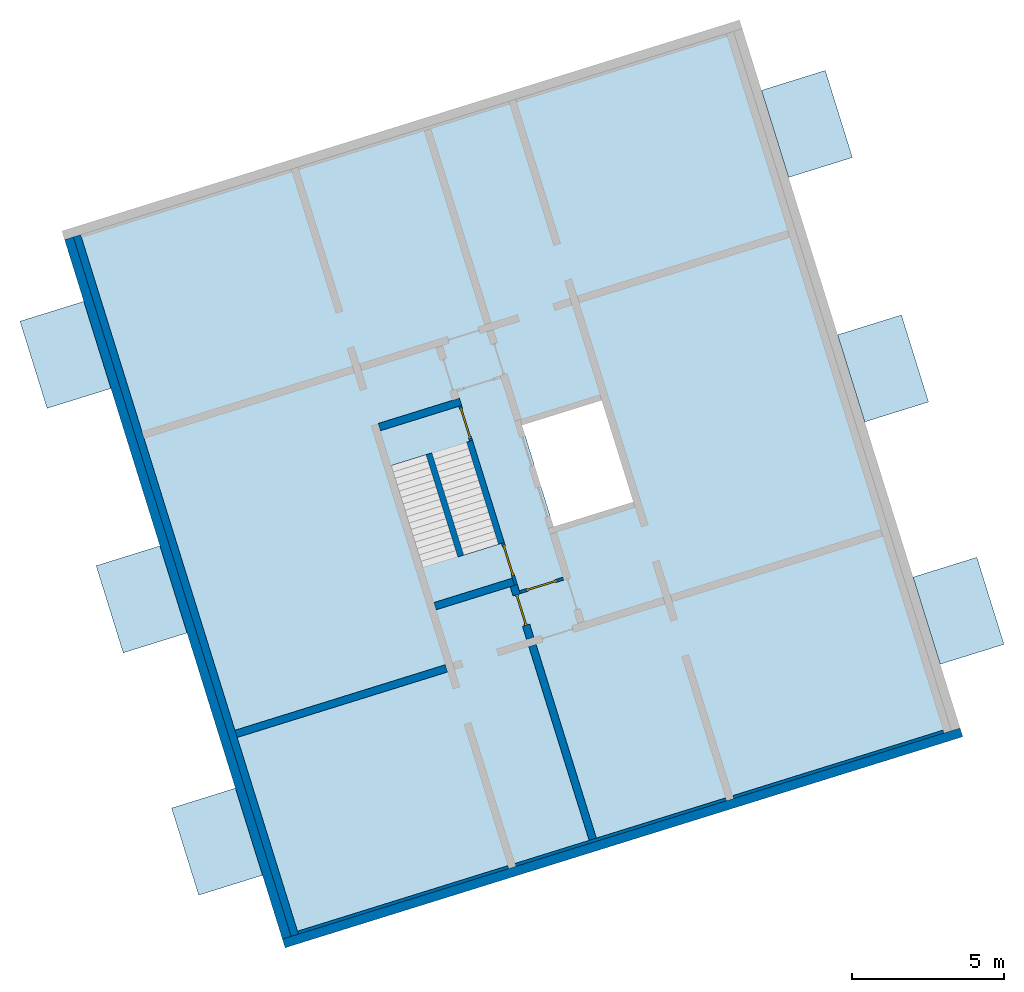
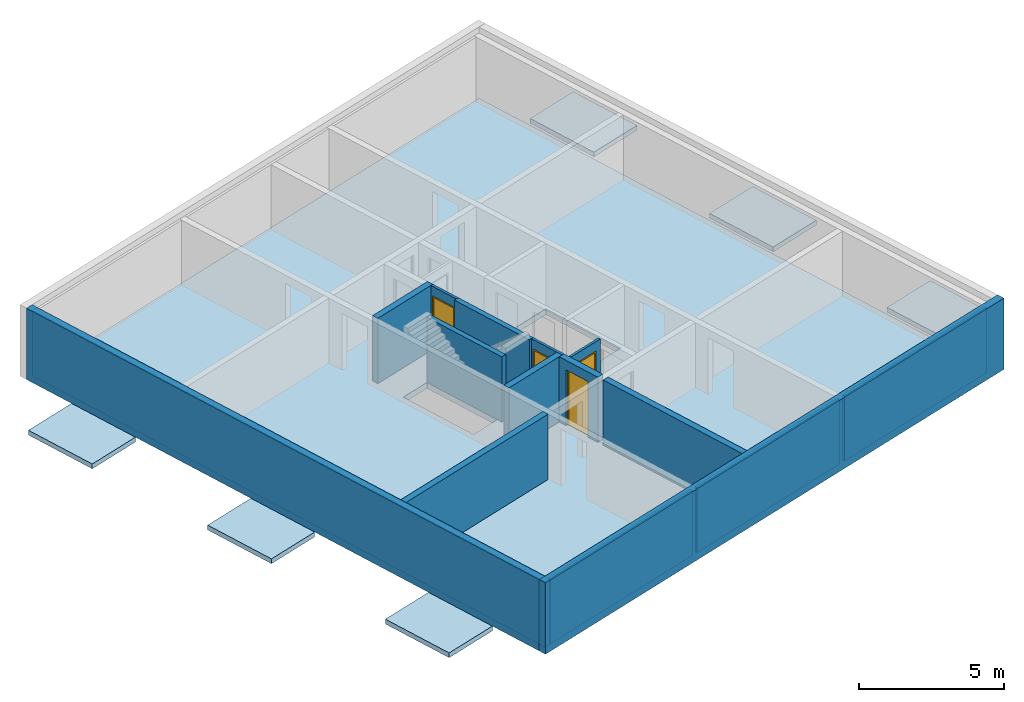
# One storey, part 1 of 4: 16 walls, 7 slabs, 4 doors, 6 openings.
"""IFC4 building model written with IfcOpenShell, lengths in metres."""

import ifcopenshell
import ifcopenshell.guid

model = None  # the IFC model being written
_history = None  # IfcOwnerHistory: only IFC2X3 demands one
_inside = {}  # id of a spatial element -> (the spatial element, [elements in it])
_under = {}  # id of a project, library or spatial element -> (it, [spatial elements below it])
_declared = {}  # id of a project -> (the project, [libraries it declares])
_typed = {}  # id of a type object -> (the type object, [elements of that type])
_made_of = {}  # id of a material, layer set ... -> (it, [elements and type objects made of it])


def new_model(schema):
    """Start an empty IFC model of exactly this schema.

    Asked for "IFC4X3", IfcOpenShell would pick the latest addendum, in which some entities
    have other attributes; the version numbers below select the first issue.
    IFC2X3 requires an IfcOwnerHistory on every rooted entity: one is made here for all.
    """
    global model, _history
    if schema == "IFC4X3":
        model = ifcopenshell.file(schema_version=(4, 3, 0, 0))
    else:
        model = ifcopenshell.file(schema=schema)
    _inside.clear()
    _under.clear()
    _declared.clear()
    _typed.clear()
    _made_of.clear()
    _history = None
    if model.schema == "IFC2X3":
        org = make("IfcOrganization", Name="unknown")
        user = make(
            "IfcPersonAndOrganization",
            ThePerson=make("IfcPerson", FamilyName="unknown"),
            TheOrganization=org,
        )
        app = make(
            "IfcApplication",
            ApplicationDeveloper=org,
            Version="unknown",
            ApplicationFullName="unknown",
            ApplicationIdentifier="unknown",
        )
        _history = make(
            "IfcOwnerHistory",
            OwningUser=user,
            OwningApplication=app,
            ChangeAction="ADDED",
            CreationDate=0,
        )
    return model


def make(cls, **values):
    """One entity of the class cls with the attributes given. An attribute that is None is left unset."""
    return model.create_entity(
        cls, **{name: value for name, value in values.items() if value is not None}
    )


def entity(cls, *values):
    """Any entity or typed value of the class cls, its attributes in the order of the schema. None: left unset."""
    e = model.create_entity(cls)
    for i, value in enumerate(values):
        if value is not None:
            e[i] = value
    return e


def rooted(cls, **values):
    """An entity with a GlobalId (a new one), such as an element, a storey or a relation."""
    return make(cls, GlobalId=ifcopenshell.guid.new(), OwnerHistory=_history, **values)


def si_unit(unit_type, name, prefix=None):
    """IfcSIUnit, for example si_unit("LENGTHUNIT", "METRE", prefix="MILLI")."""
    return make("IfcSIUnit", UnitType=unit_type, Prefix=prefix, Name=name)


def converted_unit(unit_type, name, factor, base, dimensions=None, offset=None):
    """IfcConversionBasedUnit, such as the inch: factor (a typed value) times the base unit."""
    return make(
        "IfcConversionBasedUnit"
        if offset is None
        else "IfcConversionBasedUnitWithOffset",
        ConversionOffset=offset,
        Dimensions=None
        if dimensions is None
        else entity("IfcDimensionalExponents", *dimensions),
        UnitType=unit_type,
        Name=name,
        ConversionFactor=make(
            "IfcMeasureWithUnit", ValueComponent=factor, UnitComponent=base
        ),
    )


def assignment(units):
    """IfcUnitAssignment: the units of a project."""
    return None if units is None else make("IfcUnitAssignment", Units=units)


def point(xyz):
    """IfcCartesianPoint."""
    return None if xyz is None else make("IfcCartesianPoint", Coordinates=xyz)


def direction(xyz):
    """IfcDirection."""
    return None if xyz is None else make("IfcDirection", DirectionRatios=xyz)


def frame(location, z_axis=None, x_axis=None):
    """IfcAxis2Placement3D, a coordinate frame: its origin and axes. An axis left out is left unset."""
    return make(
        "IfcAxis2Placement3D",
        Location=point(location),
        Axis=direction(z_axis),
        RefDirection=direction(x_axis),
    )


def origin():
    """The frame at (0, 0, 0) with its axes left unset."""
    return frame((0.0, 0.0, 0.0))


def place(relative_to, where):
    """IfcLocalPlacement: puts the frame where relative to a parent placement (None: the world)."""
    return make(
        "IfcLocalPlacement", PlacementRelTo=relative_to, RelativePlacement=where
    )


def context(
    kind, dimensions, precision=None, world=None, true_north=None, identifier=None
):
    """IfcGeometricRepresentationContext, for example the 3D "Model" context."""
    return make(
        "IfcGeometricRepresentationContext",
        ContextIdentifier=identifier,
        ContextType=kind,
        CoordinateSpaceDimension=dimensions,
        Precision=precision,
        WorldCoordinateSystem=world,
        TrueNorth=true_north,
    )


def subcontext(parent, identifier, kind, view, scale=None):
    """IfcGeometricRepresentationSubContext, for example "Body" below "Model"."""
    return make(
        "IfcGeometricRepresentationSubContext",
        ContextIdentifier=identifier,
        ContextType=kind,
        ParentContext=parent,
        TargetScale=scale,
        TargetView=view,
    )


def project(units=None, contexts=None):
    """IfcProject with its units and contexts."""
    return rooted(
        "IfcProject",
        Name="project",
        RepresentationContexts=contexts,
        UnitsInContext=assignment(units),
    )


def spatial(cls, under=None, at=None, **own):
    """A site, building, storey or space (cls), placed at a placement, below another one or the project."""
    s = rooted(cls, ObjectPlacement=at, **own)
    if under is not None:
        _under.setdefault(under.id(), (under, []))[1].append(s)
    return s


def point_list(points):
    """IfcCartesianPointList2D or 3D."""
    cls = (
        "IfcCartesianPointList2D" if len(points[0]) == 2 else "IfcCartesianPointList3D"
    )
    return make(cls, CoordList=points)


def indexed_curve(points, segments=None, self_intersect=None):
    """IfcIndexedPolyCurve: lines and arcs through numbered points (the first is 1)."""
    return make(
        "IfcIndexedPolyCurve",
        Points=point_list(points),
        Segments=segments,
        SelfIntersect=self_intersect,
    )


def outline(outer, holes=None, kind="AREA"):
    """IfcArbitraryClosedProfileDef: a profile drawn as a closed curve; with holes, ...WithVoids."""
    if holes is None:
        return make("IfcArbitraryClosedProfileDef", ProfileType=kind, OuterCurve=outer)
    return make(
        "IfcArbitraryProfileDefWithVoids",
        ProfileType=kind,
        OuterCurve=outer,
        InnerCurves=holes,
    )


def extrude(swept, where, along, depth):
    """IfcExtrudedAreaSolid: the profile swept, set in the frame where, extruded along a direction by depth."""
    return make(
        "IfcExtrudedAreaSolid",
        SweptArea=swept,
        Position=where,
        ExtrudedDirection=direction(along),
        Depth=depth,
    )


def polygons(points, faces, closed=None, point_numbers=None):
    """IfcPolygonalFaceSet: a face is its outer loop, then its inner loops; points numbered from 1."""
    made = []
    for loops in faces:
        if len(loops) == 1:
            made.append(make("IfcIndexedPolygonalFace", CoordIndex=loops[0]))
        else:
            made.append(
                make(
                    "IfcIndexedPolygonalFaceWithVoids",
                    CoordIndex=loops[0],
                    InnerCoordIndices=loops[1:],
                )
            )
    return make(
        "IfcPolygonalFaceSet",
        Coordinates=point_list(points),
        Closed=closed,
        Faces=made,
        PnIndex=point_numbers,
    )


def shape(context_of_items, identifier, shape_type, items):
    """IfcShapeRepresentation: the items that make up one representation, for example the "Body"."""
    return make(
        "IfcShapeRepresentation",
        ContextOfItems=context_of_items,
        RepresentationIdentifier=identifier,
        RepresentationType=shape_type,
        Items=items,
    )


def source(mapping_origin, context_of_items, identifier, shape_type, items):
    """IfcRepresentationMap: a shape defined once, which mapped items show again and again."""
    return make(
        "IfcRepresentationMap",
        MappingOrigin=mapping_origin,
        MappedRepresentation=shape(context_of_items, identifier, shape_type, items),
    )


def transform(
    local_origin,
    x_axis=None,
    y_axis=None,
    z_axis=None,
    scale=None,
    scale2=None,
    scale3=None,
    uniform=True,
):
    """IfcCartesianTransformationOperator3D, or its non-uniform kind. x_axis, y_axis, z_axis: its Axis1, 2, 3."""
    if uniform:
        return make(
            "IfcCartesianTransformationOperator3D",
            Axis1=direction(x_axis),
            Axis2=direction(y_axis),
            LocalOrigin=point(local_origin),
            Scale=scale,
            Axis3=direction(z_axis),
        )
    return make(
        "IfcCartesianTransformationOperator3DnonUniform",
        Axis1=direction(x_axis),
        Axis2=direction(y_axis),
        LocalOrigin=point(local_origin),
        Scale=scale,
        Axis3=direction(z_axis),
        Scale2=scale2,
        Scale3=scale3,
    )


def mapped(mapping_source, mapping_target):
    """IfcMappedItem: shows the shape of a source again, moved by a transform."""
    return make(
        "IfcMappedItem", MappingSource=mapping_source, MappingTarget=mapping_target
    )


def material(Name=None, Category=None):
    """IfcMaterial."""
    return make("IfcMaterial", Name=Name, Category=Category)


def constituent(of_material, Name=None, Category=None, fraction=None):
    """IfcMaterialConstituent: one of the materials an element consists of."""
    return make(
        "IfcMaterialConstituent",
        Name=Name,
        Material=of_material,
        Fraction=fraction,
        Category=Category,
    )


def constituent_set(constituents=None, Name=None):
    """IfcMaterialConstituentSet."""
    return make(
        "IfcMaterialConstituentSet", Name=Name, MaterialConstituents=constituents
    )


def made_of(thing, what):
    """Note that an element or type object is made of a material, layer set ...; save() writes the relation."""
    if what is not None:
        _made_of.setdefault(what.id(), (what, []))[1].append(thing)
    return thing


def type_object(cls, material=None, **own):
    """A type object (cls), such as IfcWallType, which elements share."""
    return made_of(rooted(cls, **own), material)


def type_shapes(of_type, sources):
    """Give a type object the sources (RepresentationMaps) that its elements show as mapped items."""
    of_type.RepresentationMaps = sources


def element(
    cls,
    number,
    at=None,
    inside=None,
    cuts=None,
    type_object=None,
    material=None,
    context=None,
    identifier="Body",
    shape_type=None,
    held_by="IfcProductDefinitionShape",
    body=None,
    shapes=None,
    **own,
):
    """One element of the class cls, such as IfcWall. Its Tag is "e" and its number.

    at: its placement. inside: the storey or other place that contains it. cuts: it is an
    opening in that element (IfcRelVoidsElement). A single representation is given by context,
    identifier, shape_type and body (its items); several are given by shapes. held_by: the class
    of the entity that holds the representations. save() writes the other relations.
    """
    e = rooted(cls, Tag="e%d" % number, ObjectPlacement=at, **own)
    if body is not None:
        shapes = [shape(context, identifier, shape_type, body)]
    if shapes is not None:
        e.Representation = make(held_by, Representations=shapes)
    if inside is not None:
        _inside.setdefault(inside.id(), (inside, []))[1].append(e)
    if cuts is not None:
        rooted(
            "IfcRelVoidsElement", RelatingBuildingElement=cuts, RelatedOpeningElement=e
        )
    if type_object is not None:
        _typed.setdefault(type_object.id(), (type_object, []))[1].append(e)
    return made_of(e, material)


def fill(opening, filler):
    """IfcRelFillsElement: the door or window that sits in an opening."""
    return rooted(
        "IfcRelFillsElement",
        RelatingOpeningElement=opening,
        RelatedBuildingElement=filler,
    )


def aggregate(whole, parts):
    """IfcRelAggregates: a whole, such as a stair, and the parts it consists of."""
    return rooted("IfcRelAggregates", RelatingObject=whole, RelatedObjects=parts)


def save(model, path):
    """Write the relations noted so far, then the file.

    IfcRelAggregates (storeys below a building ...), IfcRelContainedInSpatialStructure (elements
    in a storey), IfcRelDefinesByType, IfcRelAssociatesMaterial and IfcRelDeclares: one each for
    every whole, place, type object, material and project.
    """
    for whole, parts in _under.values():
        aggregate(whole, parts)
    for where, things in _inside.values():
        rooted(
            "IfcRelContainedInSpatialStructure",
            RelatedElements=things,
            RelatingStructure=where,
        )
    for kind, things in _typed.values():
        rooted("IfcRelDefinesByType", RelatedObjects=things, RelatingType=kind)
    for what, things in _made_of.values():
        rooted("IfcRelAssociatesMaterial", RelatedObjects=things, RelatingMaterial=what)
    for by, libraries in _declared.values():
        rooted("IfcRelDeclares", RelatingContext=by, RelatedDefinitions=libraries)
    model.write(path)


model = new_model("IFC4")

# Units and contexts
model_context = context("Model", 3, precision=1e-05, world=origin(), true_north=direction((6.12323399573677e-17, 1.0)))
body_context = subcontext(model_context, "Body", "Model", "MODEL_VIEW")
ifc_project = project(units=[si_unit("LENGTHUNIT", "METRE"), si_unit("AREAUNIT", "SQUARE_METRE"), si_unit("VOLUMEUNIT", "CUBIC_METRE"), converted_unit("PLANEANGLEUNIT", "DEGREE", entity("IfcPlaneAngleMeasure", 0.0174532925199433), si_unit("PLANEANGLEUNIT", "RADIAN"), dimensions=[0, 0, 0, 0, 0, 0, 0])], contexts=[model_context])

# Site, building, storey
site_placement = place(None, frame((13.1347999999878, 11.9886000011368, 0.0), z_axis=(0.0, 0.0, 1.0), x_axis=(0.954770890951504, 0.297342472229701, 0.0)))
site = spatial("IfcSite", under=ifc_project, at=site_placement, Name="Schiehaven", CompositionType="ELEMENT")
building_placement = place(site_placement, origin())
building = spatial("IfcBuilding", under=site, at=building_placement, Name="VORM huis", CompositionType="ELEMENT")
storey_placement = place(building_placement, frame((0.0, 0.0, 12.9)))
storey = spatial("IfcBuildingStorey", under=building, at=storey_placement, Name="04 vierde verdieping", CompositionType="ELEMENT", Elevation=12.9)

# Slab, openings
ifc_material_1 = material(Name="beton_gewapend_ihw", Category="Miscellaneous")
slab_type_1 = type_object("IfcSlabType", Name="Floor:28_FL_skelet_vloer 250mm", PredefinedType="FLOOR", material=ifc_material_1)
slab_1_placement = place(storey_placement, origin())
slab_1 = element("IfcSlab", 1, at=slab_1_placement, inside=storey, type_object=slab_type_1, material=ifc_material_1, Name="Constructieve vloer", ObjectType="Vloer", PredefinedType="FLOOR", context=body_context, shape_type="SweptSolid", body=[
    extrude(outline(indexed_curve([(-12.0499999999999, -11.375), (12.0499999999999, -11.375), (12.0499999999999, 11.375), (-12.0499999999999, 11.375), (-12.0499999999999, -11.375)], self_intersect=False), holes=[indexed_curve([(1.75000000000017, 3.62500000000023), (1.75000000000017, 0.875000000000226), (-1.74999999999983, 0.875000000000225), (-1.74999999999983, 3.62500000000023), (1.75000000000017, 3.62500000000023)], self_intersect=False), indexed_curve([(-1.53999999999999, -2.22499999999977), (-1.53999999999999, -1.02499999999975), (1.76000000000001, -1.02499999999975), (1.76000000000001, -2.22499999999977), (-1.53999999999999, -2.22499999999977)], self_intersect=False), indexed_curve([(1.54000000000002, -3.62499999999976), (-1.75999999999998, -3.62499999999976), (-1.75999999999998, -2.42499999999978), (1.54000000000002, -2.42499999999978), (1.54000000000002, -3.62499999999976)], self_intersect=False)]), frame((68.7500000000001, 17.0499999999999, -0.249999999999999), z_axis=(0.0, 0.0, 1.0), x_axis=(0.0, -1.0, 0.0)), (0.0, 0.0, 1.0), 0.249999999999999),
])
opening_1_placement = place(slab_1_placement, origin())
element("IfcOpeningElement", 2, at=opening_1_placement, cuts=slab_1, Name="Constructieve vloer", PredefinedType="OPENING", context=body_context, shape_type="SweptSolid", body=[
    extrude(outline(indexed_curve([(-1.75, -1.375), (1.75, -1.375), (1.75, 1.37500000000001), (-1.75, 1.37500000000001), (-1.75, -1.375)], self_intersect=False)), frame((71.0, 17.0499999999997, -0.249999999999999), z_axis=(0.0, 0.0, 1.0), x_axis=(0.0, 1.0, 0.0)), (0.0, 0.0, 1.0), 0.249999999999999),
])
opening_2_placement = place(slab_1_placement, origin())
element("IfcOpeningElement", 3, at=opening_2_placement, cuts=slab_1, Name="Constructieve vloer", PredefinedType="OPENING", context=body_context, shape_type="SweptSolid", body=[
    extrude(outline(indexed_curve([(-1.65, -0.600000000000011), (1.65000000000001, -0.600000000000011), (1.65000000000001, 0.600000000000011), (-1.65, 0.600000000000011), (-1.65, -0.600000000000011)], self_intersect=False)), frame((67.1250000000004, 16.9399999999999, -0.249999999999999), z_axis=(0.0, 0.0, 1.0), x_axis=(0.0, -1.0, 0.0)), (0.0, 0.0, 1.0), 0.249999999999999),
])

# Slabs
ifc_material_2 = material(Name="beton_gewapend_prefab-element", Category="Miscellaneous")
slab_type_2 = type_object("IfcSlabType", Name="Floor:23_FL_skelet_balkon 200mm", PredefinedType="FLOOR", material=ifc_material_2)
slab_2_placement = place(storey_placement, origin())
element("IfcSlab", 4, at=slab_2_placement, inside=storey, type_object=slab_type_2, material=ifc_material_2, Name="Balkonvloer", ObjectType="Vloer", PredefinedType="FLOOR", context=body_context, shape_type="SweptSolid", body=[
    extrude(outline(indexed_curve([(-1.5, -1.1), (1.5, -1.1), (1.5, 1.1), (-1.5, 1.1), (-1.5, -1.1)], self_intersect=False)), frame((55.9750000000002, 25.475, 0.0), z_axis=(0.0, 0.0, -1.0), x_axis=(0.0, 1.0, 0.0)), (0.0, 0.0, 1.0), 0.2),
])
slab_3_placement = place(storey_placement, origin())
element("IfcSlab", 5, at=slab_3_placement, inside=storey, type_object=slab_type_2, material=ifc_material_2, Name="Balkonvloer", ObjectType="Vloer", PredefinedType="FLOOR", context=body_context, shape_type="SweptSolid", body=[
    extrude(outline(indexed_curve([(-1.50000000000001, -1.1), (1.49999999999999, -1.1), (1.50000000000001, 1.10000000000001), (-1.49999999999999, 1.1), (-1.50000000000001, -1.1)], self_intersect=False)), frame((55.9750000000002, 8.70000000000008, 0.0), z_axis=(0.0, 0.0, -1.0), x_axis=(0.0, 1.0, 0.0)), (0.0, 0.0, 1.0), 0.2),
])
slab_4_placement = place(storey_placement, origin())
element("IfcSlab", 6, at=slab_4_placement, inside=storey, type_object=slab_type_2, material=ifc_material_2, Name="Balkonvloer", ObjectType="Vloer", PredefinedType="FLOOR", context=body_context, shape_type="SweptSolid", body=[
    extrude(outline(indexed_curve([(-1.50000000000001, -1.1), (1.49999999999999, -1.1), (1.50000000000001, 1.1), (-1.49999999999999, 1.10000000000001), (-1.50000000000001, -1.1)], self_intersect=False)), frame((55.9750000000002, 17.0499999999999, 0.0), z_axis=(0.0, 0.0, -1.0), x_axis=(0.0, 1.0, 0.0)), (0.0, 0.0, 1.0), 0.2),
])
slab_5_placement = place(storey_placement, origin())
element("IfcSlab", 7, at=slab_5_placement, inside=storey, type_object=slab_type_2, material=ifc_material_2, Name="Balkonvloer", ObjectType="Vloer", PredefinedType="FLOOR", context=body_context, shape_type="SweptSolid", body=[
    extrude(outline(indexed_curve([(-1.50000000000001, -1.1), (1.49999999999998, -1.1), (1.50000000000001, 1.1), (-1.49999999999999, 1.1), (-1.50000000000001, -1.1)], self_intersect=False)), frame((81.5250000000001, 25.475, 0.0), z_axis=(0.0, 0.0, -1.0), x_axis=(0.0, 1.0, 0.0)), (0.0, 0.0, 1.0), 0.2),
])
slab_6_placement = place(storey_placement, origin())
element("IfcSlab", 8, at=slab_6_placement, inside=storey, type_object=slab_type_2, material=ifc_material_2, Name="Balkonvloer", ObjectType="Vloer", PredefinedType="FLOOR", context=body_context, shape_type="SweptSolid", body=[
    extrude(outline(indexed_curve([(-1.50000000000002, -1.1), (1.49999999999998, -1.1), (1.50000000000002, 1.10000000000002), (-1.49999999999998, 1.10000000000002), (-1.50000000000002, -1.1)], self_intersect=False)), frame((81.5250000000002, 8.70000000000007, 0.0), z_axis=(0.0, 0.0, -1.0), x_axis=(0.0, 1.0, 0.0)), (0.0, 0.0, 1.0), 0.2),
])
slab_7_placement = place(storey_placement, origin())
element("IfcSlab", 9, at=slab_7_placement, inside=storey, type_object=slab_type_2, material=ifc_material_2, Name="Balkonvloer", ObjectType="Vloer", PredefinedType="FLOOR", context=body_context, shape_type="SweptSolid", body=[
    extrude(outline(indexed_curve([(-1.5, -1.09999999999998), (1.5, -1.09999999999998), (1.5, 1.1), (-1.5, 1.1), (-1.5, -1.09999999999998)], self_intersect=False)), frame((81.5250000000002, 17.05, 0.0), z_axis=(0.0, 0.0, -1.0), x_axis=(0.0, 1.0, 0.0)), (0.0, 0.0, 1.0), 0.2),
])

# Walls
wall_type_1 = type_object("IfcWallType", Name="Basic Wall:28_WA_skelet_wand 250mm_gen", PredefinedType="STANDARD")
wall_1_placement = place(storey_placement, frame((57.5000000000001, 5.0, 0.0), z_axis=(0.0, 0.0, 1.0), x_axis=(0.0, 1.0, 0.0)))
element("IfcWall", 10, at=wall_1_placement, inside=storey, type_object=wall_type_1, material=ifc_material_1, Name="Constructieve wand", ObjectType="Wand", PredefinedType="NOTDEFINED", context=body_context, shape_type="SweptSolid", body=[
    extrude(outline(indexed_curve([(24.1, 0.124999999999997), (1.84706995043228e-16, 0.124999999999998), (-1.84706995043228e-16, -0.124999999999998), (24.1, -0.124999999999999), (24.1, 0.124999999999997)], self_intersect=False)), origin(), (0.0, 0.0, 1.0), 2.75),
])
ifc_material_3 = material(Name="ntb_ntb_ntb", Category="Miscellaneous")
wall_type_2 = type_object("IfcWallType", Name="Basic Wall:21_WA_gevel_binnenspouwwand 100mm_gen", PredefinedType="STANDARD")
wall_2_placement = place(storey_placement, frame((79.8750000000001, 5.04999999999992, 0.0), z_axis=(0.0, 0.0, 1.0), x_axis=(-1.0, 0.0, 0.0)))
element("IfcWall", 11, at=wall_2_placement, inside=storey, type_object=wall_type_2, material=ifc_material_3, Name="Binnenspouwblad", ObjectType="Wand", PredefinedType="NOTDEFINED", context=body_context, shape_type="SweptSolid", body=[
    extrude(outline(indexed_curve([(7.24999999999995, 0.0500000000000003), (-5.72474684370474e-18, 0.0500000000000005), (5.72474684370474e-18, -0.0500000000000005), (7.24999999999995, -0.0500000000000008), (7.24999999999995, 0.0500000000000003)], self_intersect=False)), origin(), (0.0, 0.0, 1.0), 2.75),
])
wall_3_placement = place(storey_placement, frame((65.1250000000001, 5.0499999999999, 0.0)))
element("IfcWall", 12, at=wall_3_placement, inside=storey, type_object=wall_type_2, material=ifc_material_3, Name="Binnenspouwblad", ObjectType="Wand", PredefinedType="NOTDEFINED", context=body_context, shape_type="SweptSolid", body=[
    extrude(outline(indexed_curve([(7.24999999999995, 0.0500000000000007), (1.48468503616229e-16, 0.0500000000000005), (-1.48468503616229e-16, -0.0500000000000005), (7.24999999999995, -0.0500000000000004), (7.24999999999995, 0.0500000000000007)], self_intersect=False)), origin(), (0.0, 0.0, 1.0), 2.75),
])
wall_4_placement = place(storey_placement, frame((64.875, 5.0499999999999, 0.0), z_axis=(0.0, 0.0, 1.0), x_axis=(-1.0, 0.0, 0.0)))
element("IfcWall", 13, at=wall_4_placement, inside=storey, type_object=wall_type_2, material=ifc_material_3, Name="Binnenspouwblad", ObjectType="Wand", PredefinedType="NOTDEFINED", context=body_context, shape_type="SweptSolid", body=[
    extrude(outline(indexed_curve([(7.24999999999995, 0.0500000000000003), (-5.72474684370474e-18, 0.0500000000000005), (5.72474684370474e-18, -0.0500000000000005), (7.24999999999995, -0.0500000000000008), (7.24999999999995, 0.0500000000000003)], self_intersect=False)), origin(), (0.0, 0.0, 1.0), 2.75),
])
wall_type_3 = type_object("IfcWallType", Name="Basic Wall: 300mm_gen", PredefinedType="STANDARD")
wall_5_placement = place(storey_placement, frame((57.075, 4.84999999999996, 0.0)))
element("IfcWall", 14, at=wall_5_placement, inside=storey, type_object=wall_type_3, material=ifc_material_3, Name="Gevelwand", ObjectType="Wand", PredefinedType="NOTDEFINED", context=body_context, shape_type="SweptSolid", body=[
    extrude(outline(indexed_curve([(23.35, 0.150000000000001), (-2.29983128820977e-16, 0.150000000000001), (2.29983128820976e-16, -0.15), (23.35, -0.15), (23.35, 0.150000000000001)], self_intersect=False)), origin(), (0.0, 0.0, 1.0), 3.0),
])
wall_6_placement = place(storey_placement, frame((57.2250000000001, 29.0999999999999, 0.0), z_axis=(0.0, 0.0, 1.0), x_axis=(0.0, -1.0, 0.0)))
element("IfcWall", 15, at=wall_6_placement, inside=storey, type_object=wall_type_3, material=ifc_material_3, Name="Gevelwand", ObjectType="Wand", PredefinedType="NOTDEFINED", context=body_context, shape_type="SweptSolid", body=[
    extrude(outline(indexed_curve([(24.1, 0.149999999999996), (-2.43297068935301e-16, 0.150000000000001), (2.43297068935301e-16, -0.150000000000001), (24.1, -0.150000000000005), (24.1, 0.149999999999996)], self_intersect=False)), origin(), (0.0, 0.0, 1.0), 3.0),
])
wall_type_4 = type_object("IfcWallType", Name="Basic Wall:28_WA_skelet_wand 200mm_gen", PredefinedType="STANDARD")
wall_7_placement = place(storey_placement, frame((67.8250000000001, 15.2899999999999, 0.0), z_axis=(0.0, 0.0, 1.0), x_axis=(0.0, 1.0, 0.0)))
element("IfcWall", 16, at=wall_7_placement, inside=storey, type_object=wall_type_4, material=ifc_material_2, Name="Constructieve wand", ObjectType="Wand", PredefinedType="NOTDEFINED", context=body_context, shape_type="SweptSolid", body=[
    extrude(outline(indexed_curve([(3.52, 0.100000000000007), (1.31886131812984e-16, 0.100000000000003), (-1.31886131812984e-16, -0.100000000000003), (3.52, -0.0999999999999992), (3.52, 0.100000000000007)], self_intersect=False)), origin(), (0.0, 0.0, 1.0), 2.75),
])
wall_8_placement = place(storey_placement, frame((66.4250000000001, 15.2899999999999, 0.0), z_axis=(0.0, 0.0, 1.0), x_axis=(0.0, 1.0, 0.0)))
element("IfcWall", 17, at=wall_8_placement, inside=storey, type_object=wall_type_4, material=ifc_material_2, Name="Constructieve wand", ObjectType="Wand", PredefinedType="NOTDEFINED", context=body_context, shape_type="SweptSolid", body=[
    extrude(outline(indexed_curve([(3.52, 0.100000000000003), (2.54939214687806e-16, 0.100000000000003), (-2.54939214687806e-16, -0.100000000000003), (3.52, -0.100000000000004), (3.52, 0.100000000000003)], self_intersect=False)), origin(), (0.0, 0.0, 1.0), 2.75),
])
wall_type_5 = type_object("IfcWallType", Name="Basic Wall:22_WA_afbouw_binnenwand 250mm_gen", PredefinedType="STANDARD")
wall_9_placement = place(storey_placement, frame((65.1250000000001, 20.1349999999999, 0.0)))
element("IfcWall", 18, at=wall_9_placement, inside=storey, type_object=wall_type_5, material=ifc_material_3, Name="Binnenwand", ObjectType="Wand", PredefinedType="NOTDEFINED", context=body_context, shape_type="SweptSolid", body=[
    extrude(outline(indexed_curve([(2.8, 0.125000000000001), (2.00742282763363e-17, 0.125000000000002), (-2.00742282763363e-17, -0.125000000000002), (2.8, -0.125000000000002), (2.8, 0.125000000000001)], self_intersect=False)), origin(), (0.0, 0.0, 1.0), 2.75),
])
wall_10_placement = place(storey_placement, frame((64.8750000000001, 11.8999999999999, 0.0), z_axis=(0.0, 0.0, 1.0), x_axis=(-1.0, 0.0, 0.0)))
element("IfcWall", 19, at=wall_10_placement, inside=storey, type_object=wall_type_5, material=ifc_material_3, Name="Binnenwand", ObjectType="Wand", PredefinedType="NOTDEFINED", context=body_context, shape_type="SweptSolid", body=[
    extrude(outline(indexed_curve([(7.24999999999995, 0.125000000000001), (-2.8436708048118e-16, 0.125), (2.8436708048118e-16, -0.125), (7.24999999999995, -0.124999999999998), (7.24999999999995, 0.125000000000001)], self_intersect=False)), origin(), (0.0, 0.0, 1.0), 2.75),
])
wall_11_placement = place(storey_placement, frame((67.8, 11.7749999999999, 0.0), z_axis=(0.0, 0.0, 1.0), x_axis=(0.0, -1.0, 0.0)))
element("IfcWall", 20, at=wall_11_placement, inside=storey, type_object=wall_type_5, material=ifc_material_3, Name="Binnenwand", ObjectType="Wand", PredefinedType="NOTDEFINED", context=body_context, shape_type="SweptSolid", body=[
    extrude(outline(indexed_curve([(6.67500000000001, 0.124999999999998), (-1.7762946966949e-16, 0.124999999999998), (1.7762946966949e-16, -0.124999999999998), (6.67500000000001, -0.124999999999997), (6.67500000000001, 0.124999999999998)], self_intersect=False)), origin(), (0.0, 0.0, 1.0), 2.75),
])

# Wall, opening, door
wall_12_placement = place(storey_placement, frame((67.8000000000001, 13.8399999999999, 0.0), z_axis=(0.0, 0.0, 1.0), x_axis=(0.0, -1.0, 0.0)))
wall_12 = element("IfcWall", 21, at=wall_12_placement, inside=storey, type_object=wall_type_5, material=ifc_material_3, Name="Binnenwand", ObjectType="Wand", PredefinedType="NOTDEFINED", context=body_context, shape_type="Tessellation", body=[
    polygons([(0.0, -0.125000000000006, -2.16573425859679e-15), (0.315000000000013, -0.125000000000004, -2.16573425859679e-15), (0.315000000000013, -0.125000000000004, 2.34999999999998), (1.36500000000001, -0.125000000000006, 2.34999999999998), (1.36500000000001, -0.125000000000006, -2.16573425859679e-15), (1.81499999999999, -0.125000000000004, -2.16573425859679e-15), (1.81499999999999, -0.125000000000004, 2.75), (0.0, -0.125000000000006, 2.75), (0.315000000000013, 0.124999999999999, 2.34999999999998), (0.315000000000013, 0.124999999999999, -2.16573425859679e-15), (0.215000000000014, 0.124999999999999, -2.16573425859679e-15), (-2.16573425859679e-15, 0.124999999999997, -2.16573425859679e-15), (-2.16573425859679e-15, 0.124999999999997, 2.75), (0.215000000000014, 0.124999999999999, 2.75), (0.315000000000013, 0.124999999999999, 2.75), (1.81499999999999, 0.125, 2.75), (1.81499999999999, 0.125, -2.16573425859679e-15), (1.36500000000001, 0.124999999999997, -2.16573425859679e-15), (1.36500000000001, 0.124999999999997, 2.34999999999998), (0.0, 0.0250000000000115, -2.16573425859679e-15), (0.0, 0.0250000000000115, 2.75)], [[[1, 2, 3, 4, 5, 6, 7, 8]], [[9, 10, 11, 12, 13, 14, 15, 16, 17, 18, 19]], [[12, 11, 10, 2, 1, 20]], [[7, 6, 17, 16]], [[8, 7, 16, 15, 14, 13, 21]], [[5, 4, 19, 18]], [[3, 2, 10, 9]], [[4, 3, 9, 19]], [[1, 8, 21, 13, 12, 20]], [[18, 17, 6, 5]]], closed=True),
])
opening_3_placement = place(wall_12_placement, frame((0.315000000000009, -0.125000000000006, 0.0)))
opening_3 = element("IfcOpeningElement", 22, at=opening_3_placement, cuts=wall_12, Name="Woningtoegangsdeur", PredefinedType="OPENING", context=body_context, shape_type="SweptSolid", body=[
    extrude(outline(indexed_curve([(2.34999999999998, 1.05), (0.0, 1.05), (0.0, 1.35358391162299e-15), (2.34999999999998, 1.35358391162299e-15), (2.34999999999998, 1.05)], self_intersect=False)), frame((0.0, 0.0, 0.0), z_axis=(0.0, 1.0, 0.0), x_axis=(0.0, 0.0, 1.0)), (0.0, 0.0, 1.0), 0.25),
])
ifc_material_4 = material(Name="PD_a_binnenwandopeningen", Category="Miscellaneous")
ifc_constituent_1 = constituent(ifc_material_4, Name="PD_a_binnenwandopeningen", Category="Miscellaneous")
ifc_material_5 = material(Name="metaal_aluminium_ntb", Category="Miscellaneous")
ifc_constituent_2 = constituent(ifc_material_5, Name="metaal_aluminium_ntb", Category="Miscellaneous")
ifc_constituent_set_1 = constituent_set(constituents=[ifc_constituent_1, ifc_constituent_2])
ifc_constituent_3 = constituent(ifc_material_4, Name="PD_a_binnenwandopeningen", Category="Miscellaneous")
ifc_constituent_4 = constituent(ifc_material_5, Name="Panel", Category="Miscellaneous")
ifc_constituent_set_2 = constituent_set(constituents=[ifc_constituent_3, ifc_constituent_4])
door_type_1 = type_object("IfcDoorType", Name="32_DO_binnendeur enkel:woningtoegangsdeur", OperationType="REVOLVING", PredefinedType="DOOR", material=ifc_constituent_set_2)
shared_shape_1 = source(origin(), body_context, "Body", "SweptSolid", [
    extrude(outline(indexed_curve([(-1.16249999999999, -0.525000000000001), (1.18749999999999, -0.525), (1.18749999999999, 0.525000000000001), (-1.16249999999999, 0.525000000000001), (-1.16249999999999, 0.475), (1.13749999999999, 0.475), (1.13749999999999, -0.475), (-1.16249999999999, -0.475), (-1.16249999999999, -0.525000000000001)], self_intersect=False)), frame((0.525000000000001, 0.0749999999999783, 1.16249999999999), z_axis=(0.0, 1.0, 0.0), x_axis=(0.0, 0.0, 1.0)), (0.0, 0.0, 1.0), 0.1),
    extrude(outline(indexed_curve([(-0.025, -0.475), (0.025, -0.475), (0.025, 0.475), (-0.025, 0.475), (-0.025, -0.475)], self_intersect=False)), frame((0.525000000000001, 0.12499999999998, 0.0), z_axis=(0.0, 0.0, 1.0), x_axis=(0.0, 1.0, 0.0)), (0.0, 0.0, 1.0), 2.29999999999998),
])
type_shapes(door_type_1, [shared_shape_1])
door_1_placement = place(opening_3_placement, origin())
door_1 = element("IfcDoor", 23, at=door_1_placement, inside=storey, type_object=door_type_1, material=ifc_constituent_set_1, Name="Woningtoegangsdeur", ObjectType="Deur", OperationType="REVOLVING", OverallHeight=2.34999999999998, OverallWidth=1.05, PredefinedType="DOOR", context=body_context, shape_type="MappedRepresentation", body=[
    mapped(shared_shape_1, transform((0.0, 0.0, 0.0), scale=1.0)),
])
fill(opening_3, door_1)

# Wall
wall_13_placement = place(storey_placement, frame((65.1250000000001, 13.9649999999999, 0.0)))
element("IfcWall", 24, at=wall_13_placement, inside=storey, type_object=wall_type_5, material=ifc_material_3, Name="Binnenwand", ObjectType="Wand", PredefinedType="NOTDEFINED", context=body_context, shape_type="SweptSolid", body=[
    extrude(outline(indexed_curve([(2.70000000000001, 0.125), (-1.06625112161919e-16, 0.125), (1.06625112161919e-16, -0.125), (2.70000000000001, -0.125), (2.70000000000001, 0.125)], self_intersect=False)), origin(), (0.0, 0.0, 1.0), 2.75),
])

# Wall, opening, door
wall_type_6 = type_object("IfcWallType", Name="Basic Wall:22_WA_afbouw_binnenwand 100mm_gen", PredefinedType="STANDARD")
wall_14_placement = place(storey_placement, frame((67.8750000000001, 13.8399999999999, 0.0), z_axis=(0.0, 0.0, 1.0), x_axis=(0.0, 1.0, 0.0)))
wall_14 = element("IfcWall", 25, at=wall_14_placement, inside=storey, type_object=wall_type_6, material=ifc_material_3, Name="Binnenwand", ObjectType="Wand", PredefinedType="NOTDEFINED", context=body_context, shape_type="Tessellation", body=[
    polygons([(1.44999999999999, -0.050000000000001, -2.16573425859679e-15), (1.44999999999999, -0.050000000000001, 2.75), (0.0, -0.0499999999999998, 2.75), (0.0, -0.0499999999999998, -2.16573425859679e-15), (0.324999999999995, -0.0500000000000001, -2.16573425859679e-15), (0.324999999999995, -0.0500000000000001, 2.34999999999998), (1.375, -0.0500000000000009, 2.34999999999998), (1.375, -0.0500000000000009, -2.16573425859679e-15), (1.44999999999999, 0.0499999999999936, 2.75), (1.44999999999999, 0.0499999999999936, -2.16573425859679e-15), (1.375, 0.0499999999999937, -2.16573425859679e-15), (1.375, 0.0499999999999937, 2.34999999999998), (0.324999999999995, 0.0499999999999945, 2.34999999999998), (0.324999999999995, 0.0499999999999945, -2.16573425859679e-15), (0.249999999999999, 0.0499999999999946, -2.16573425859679e-15), (0.0, 0.0499999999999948, -2.16573425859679e-15), (0.0, 0.0499999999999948, 2.75), (0.249999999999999, 0.0499999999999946, 2.75)], [[[1, 2, 3, 4, 5, 6, 7, 8]], [[9, 10, 11, 12, 13, 14, 15, 16, 17, 18]], [[4, 16, 15, 14, 5]], [[2, 1, 10, 9]], [[3, 2, 9, 18, 17]], [[13, 6, 5, 14]], [[7, 12, 11, 8]], [[6, 13, 12, 7]], [[4, 3, 17, 16]], [[10, 1, 8, 11]]], closed=True),
])
opening_4_placement = place(wall_14_placement, frame((0.324999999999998, -0.0500000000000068, 0.0)))
opening_4 = element("IfcOpeningElement", 26, at=opening_4_placement, cuts=wall_14, Name="Vluchtdeur", PredefinedType="OPENING", context=body_context, shape_type="SweptSolid", body=[
    extrude(outline(indexed_curve([(2.34999999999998, 1.35358391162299e-15), (2.34999999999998, 1.05), (0.0, 1.05), (0.0, 1.35358391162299e-15), (2.34999999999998, 1.35358391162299e-15)], self_intersect=False)), frame((0.0, 0.0, 0.0), z_axis=(0.0, 1.0, 0.0), x_axis=(0.0, 0.0, 1.0)), (0.0, 0.0, 1.0), 0.1),
])
ifc_constituent_5 = constituent(ifc_material_4, Name="PD_a_binnenwandopeningen", Category="Miscellaneous")
ifc_constituent_6 = constituent(ifc_material_5, Name="metaal_aluminium_ntb", Category="Miscellaneous")
ifc_constituent_set_3 = constituent_set(constituents=[ifc_constituent_5, ifc_constituent_6])
ifc_constituent_7 = constituent(ifc_material_4, Name="PD_a_binnenwandopeningen", Category="Miscellaneous")
ifc_constituent_8 = constituent(ifc_material_5, Name="Panel", Category="Miscellaneous")
ifc_constituent_set_4 = constituent_set(constituents=[ifc_constituent_7, ifc_constituent_8])
door_type_2 = type_object("IfcDoorType", Name="32_DO_binnendeur enkel:binnendeur zelfsluitend 30min", OperationType="NOTDEFINED", PredefinedType="DOOR", material=ifc_constituent_set_4)
shared_shape_2 = source(origin(), body_context, "Body", "SweptSolid", [
    extrude(outline(indexed_curve([(0.475, -1.16249999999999), (0.525, -1.16249999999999), (0.525, 1.18749999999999), (-0.525, 1.18749999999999), (-0.525, -1.16249999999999), (-0.475, -1.16249999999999), (-0.475, 1.13749999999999), (0.475, 1.13749999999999), (0.475, -1.16249999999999)], self_intersect=False)), frame((0.525000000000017, 0.100000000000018, 1.16249999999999), z_axis=(0.0, -1.0, 0.0), x_axis=(1.0, 0.0, 0.0)), (0.0, 0.0, 1.0), 0.1),
    extrude(outline(indexed_curve([(-0.475, -0.025), (0.475, -0.025), (0.475, 0.025), (-0.475, 0.025), (-0.475, -0.025)], self_intersect=False)), frame((0.525000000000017, 0.0499999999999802, 0.0)), (0.0, 0.0, 1.0), 2.29999999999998),
])
type_shapes(door_type_2, [shared_shape_2])
door_2_placement = place(opening_4_placement, origin())
door_2 = element("IfcDoor", 27, at=door_2_placement, inside=storey, type_object=door_type_2, material=ifc_constituent_set_3, Name="Vluchtdeur", ObjectType="Deur", OperationType="NOTDEFINED", OverallHeight=2.34999999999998, OverallWidth=1.05, PredefinedType="DOOR", context=body_context, shape_type="MappedRepresentation", body=[
    mapped(shared_shape_2, transform((0.0, 0.0, 0.0), scale=1.0)),
])
fill(opening_4, door_2)

wall_15_placement = place(storey_placement, frame((67.8750000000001, 20.0099999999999, 0.0), z_axis=(0.0, 0.0, 1.0), x_axis=(0.0, -1.0, 0.0)))
wall_15 = element("IfcWall", 28, at=wall_15_placement, inside=storey, type_object=wall_type_6, material=ifc_material_3, Name="Binnenwand", ObjectType="Wand", PredefinedType="NOTDEFINED", context=body_context, shape_type="Tessellation", body=[
    polygons([(1.2, -0.0500000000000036, -2.16573425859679e-15), (1.2, -0.0500000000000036, 2.75), (0.0, -0.0500000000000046, 2.75), (0.0, -0.0500000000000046, -2.16573425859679e-15), (0.0750000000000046, -0.0500000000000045, -2.16573425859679e-15), (0.0750000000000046, -0.0500000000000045, 2.34999999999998), (1.125, -0.0500000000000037, 2.34999999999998), (1.125, -0.0500000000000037, -2.16573425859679e-15), (1.2, 0.049999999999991, 2.75), (1.2, 0.049999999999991, -2.16573425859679e-15), (1.125, 0.0499999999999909, -2.16573425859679e-15), (1.125, 0.0499999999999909, 2.34999999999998), (0.0750000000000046, 0.0499999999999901, 2.34999999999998), (0.0750000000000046, 0.0499999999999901, -2.16573425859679e-15), (0.0, 0.04999999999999, -2.16573425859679e-15), (0.0, 0.04999999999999, 2.75)], [[[1, 2, 3, 4, 5, 6, 7, 8]], [[9, 10, 11, 12, 13, 14, 15, 16]], [[4, 15, 14, 5]], [[2, 1, 10, 9]], [[3, 2, 9, 16]], [[4, 3, 16, 15]], [[13, 6, 5, 14]], [[6, 13, 12, 7]], [[7, 12, 11, 8]], [[10, 1, 8, 11]]], closed=True),
])
opening_5_placement = place(wall_15_placement, frame((1.12500000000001, 0.0499999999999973, 0.0)))
opening_5 = element("IfcOpeningElement", 29, at=opening_5_placement, cuts=wall_15, Name="Vluchtdeur", PredefinedType="OPENING", context=body_context, shape_type="SweptSolid", body=[
    extrude(outline(indexed_curve([(2.34999999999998, 0.0), (2.34999999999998, 1.05), (0.0, 1.05), (0.0, 0.0), (2.34999999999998, 0.0)], self_intersect=False)), frame((0.0, 0.0, 0.0), z_axis=(0.0, -1.0, 0.0), x_axis=(0.0, 0.0, 1.0)), (0.0, 0.0, 1.0), 0.1),
])
ifc_constituent_9 = constituent(ifc_material_4, Name="PD_a_binnenwandopeningen", Category="Miscellaneous")
ifc_constituent_10 = constituent(ifc_material_5, Name="metaal_aluminium_ntb", Category="Miscellaneous")
ifc_constituent_set_5 = constituent_set(constituents=[ifc_constituent_9, ifc_constituent_10])
door_3_placement = place(opening_5_placement, frame((0.0, 0.0, 0.0), z_axis=(0.0, 0.0, 1.0), x_axis=(-1.0, 0.0, 0.0)))
door_3 = element("IfcDoor", 30, at=door_3_placement, inside=storey, type_object=door_type_2, material=ifc_constituent_set_5, Name="Vluchtdeur", ObjectType="Deur", OperationType="NOTDEFINED", OverallHeight=2.34999999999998, OverallWidth=1.05, PredefinedType="DOOR", context=body_context, shape_type="MappedRepresentation", body=[
    mapped(shared_shape_2, transform((0.0, 0.0, 0.0), scale=1.0)),
])
fill(opening_5, door_3)

wall_16_placement = place(storey_placement, frame((67.9250000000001, 13.5749999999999, 0.0)))
wall_16 = element("IfcWall", 31, at=wall_16_placement, inside=storey, type_object=wall_type_6, material=ifc_material_3, Name="Binnenwand", ObjectType="Wand", PredefinedType="NOTDEFINED", context=body_context, shape_type="Tessellation", body=[
    polygons([(1.5, -0.0499999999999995, 2.75), (-1.73931956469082e-15, -0.0499999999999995, 2.75), (-1.73931956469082e-15, -0.0499999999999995, 2.34999999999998), (-1.73931956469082e-15, -0.0499999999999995, -2.16573425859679e-15), (0.224999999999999, -0.0499999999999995, -2.16573425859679e-15), (0.224999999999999, -0.0499999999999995, 2.34999999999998), (1.275, -0.0499999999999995, 2.34999999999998), (1.275, -0.0499999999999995, -2.16573425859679e-15), (1.5, -0.0499999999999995, -2.16573425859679e-15), (1.5, -0.0499999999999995, 2.34999999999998), (-1.30382056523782e-15, 0.0499999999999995, 2.75), (1.5, 0.0500000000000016, 2.75), (1.5, 0.0500000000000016, -2.16573425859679e-15), (1.275, 0.0499999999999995, -2.16573425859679e-15), (1.275, 0.0499999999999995, 2.34999999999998), (0.225, 0.0499999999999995, 2.34999999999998), (0.225, 0.0499999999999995, -2.16573425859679e-15), (-1.30382056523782e-15, 0.0499999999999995, -2.16573425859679e-15)], [[[1, 2, 3, 4, 5, 6, 7, 8, 9, 10]], [[11, 12, 13, 14, 15, 16, 17, 18]], [[4, 18, 17, 5]], [[2, 1, 12, 11]], [[16, 6, 5, 17]], [[6, 16, 15, 7]], [[7, 15, 14, 8]], [[4, 3, 2, 11, 18]], [[1, 10, 9, 13, 12]], [[13, 9, 8, 14]]], closed=True),
])
opening_6_placement = place(wall_16_placement, frame((0.225000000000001, -0.0499999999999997, 0.0)))
opening_6 = element("IfcOpeningElement", 32, at=opening_6_placement, cuts=wall_16, Name="Vluchtdeur", PredefinedType="OPENING", context=body_context, shape_type="SweptSolid", body=[
    extrude(outline(indexed_curve([(2.34999999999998, 1.05), (0.0, 1.05), (0.0, 1.06844054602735e-30), (2.34999999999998, 1.06844054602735e-30), (2.34999999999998, 1.05)], self_intersect=False)), frame((0.0, 0.0, 0.0), z_axis=(0.0, 1.0, 0.0), x_axis=(0.0, 0.0, 1.0)), (0.0, 0.0, 1.0), 0.1),
])
ifc_constituent_11 = constituent(ifc_material_4, Name="PD_a_binnenwandopeningen", Category="Miscellaneous")
ifc_constituent_12 = constituent(ifc_material_5, Name="metaal_aluminium_ntb", Category="Miscellaneous")
ifc_constituent_set_6 = constituent_set(constituents=[ifc_constituent_11, ifc_constituent_12])
ifc_constituent_13 = constituent(ifc_material_4, Name="PD_a_binnenwandopeningen", Category="Miscellaneous")
ifc_constituent_14 = constituent(ifc_material_5, Name="Panel", Category="Miscellaneous")
ifc_constituent_set_7 = constituent_set(constituents=[ifc_constituent_13, ifc_constituent_14])
door_type_3 = type_object("IfcDoorType", Name="32_DO_binnendeur enkel:binnendeur zelfsluitend 30min", OperationType="NOTDEFINED", PredefinedType="DOOR", material=ifc_constituent_set_7)
shared_shape_3 = source(origin(), body_context, "Body", "SweptSolid", [
    extrude(outline(indexed_curve([(-1.16249999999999, -0.525000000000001), (1.18749999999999, -0.525), (1.18749999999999, 0.525), (-1.16249999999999, 0.525), (-1.16249999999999, 0.475), (1.13749999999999, 0.475), (1.13749999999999, -0.475), (-1.16249999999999, -0.475), (-1.16249999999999, -0.525000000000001)], self_intersect=False)), frame((0.525000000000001, 0.0, 1.16249999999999), z_axis=(0.0, 1.0, 0.0), x_axis=(0.0, 0.0, 1.0)), (0.0, 0.0, 1.0), 0.1),
    extrude(outline(indexed_curve([(-0.025, -0.475), (0.025, -0.475), (0.025, 0.475), (-0.025, 0.475), (-0.025, -0.475)], self_intersect=False)), frame((0.525000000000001, 0.0499999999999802, 0.0), z_axis=(0.0, 0.0, 1.0), x_axis=(0.0, 1.0, 0.0)), (0.0, 0.0, 1.0), 2.29999999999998),
])
type_shapes(door_type_3, [shared_shape_3])
door_4_placement = place(opening_6_placement, origin())
door_4 = element("IfcDoor", 33, at=door_4_placement, inside=storey, type_object=door_type_3, material=ifc_constituent_set_6, Name="Vluchtdeur", ObjectType="Deur", OperationType="NOTDEFINED", OverallHeight=2.34999999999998, OverallWidth=1.05, PredefinedType="DOOR", context=body_context, shape_type="MappedRepresentation", body=[
    mapped(shared_shape_3, transform((0.0, 0.0, 0.0), scale=1.0)),
])
fill(opening_6, door_4)

save(model, "model.ifc")
